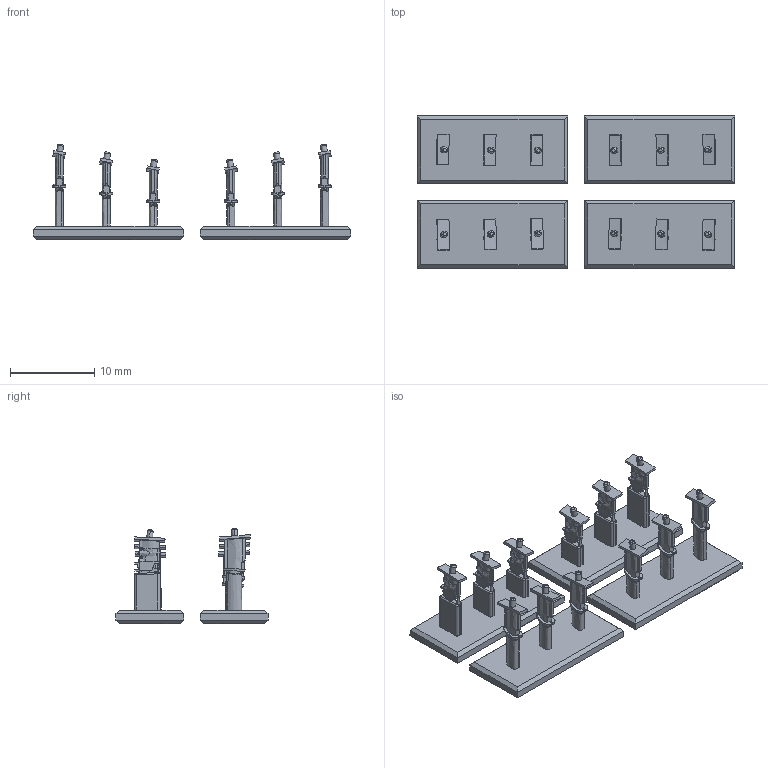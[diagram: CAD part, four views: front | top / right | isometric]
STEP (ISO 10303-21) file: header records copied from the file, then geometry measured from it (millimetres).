
FILE_DESCRIPTION(/* description */ (''),/* implementation_level */ '2;1');
FILE_NAME(/* name */ 'F6F-5H~1',/* time_stamp */ '2021-03-18T10:17:25+01:00',/* author */ (''),/* organization */ (''),/* preprocessor_version */ 'ST-DEVELOPER v16.5',/* originating_system */ '',/* authorisation */ '');
FILE_SCHEMA (('CONFIG_CONTROL_DESIGN'));
Length unit declared in the file: millimetre
Products named in the file (1): Document
Bounding box: 37.6 x 18 x 11.26 mm (x, y, z)
Volume: 1051.4 mm3; surface area: 2073.5 mm2
Topology: 4 solids, 4 shells, 812 faces, 2208 edges, 1384 vertices
Faces by surface type: bspline 366, plane 296, cylinder 150
Entity records: 65724 total; most frequent: CARTESIAN_POINT 52414, ORIENTED_EDGE 4308, EDGE_CURVE 2154, VERTEX_POINT 1390, B_SPLINE_CURVE_WITH_KNOTS 1302, EDGE_LOOP 888, ADVANCED_FACE 812, FACE_OUTER_BOUND 812
